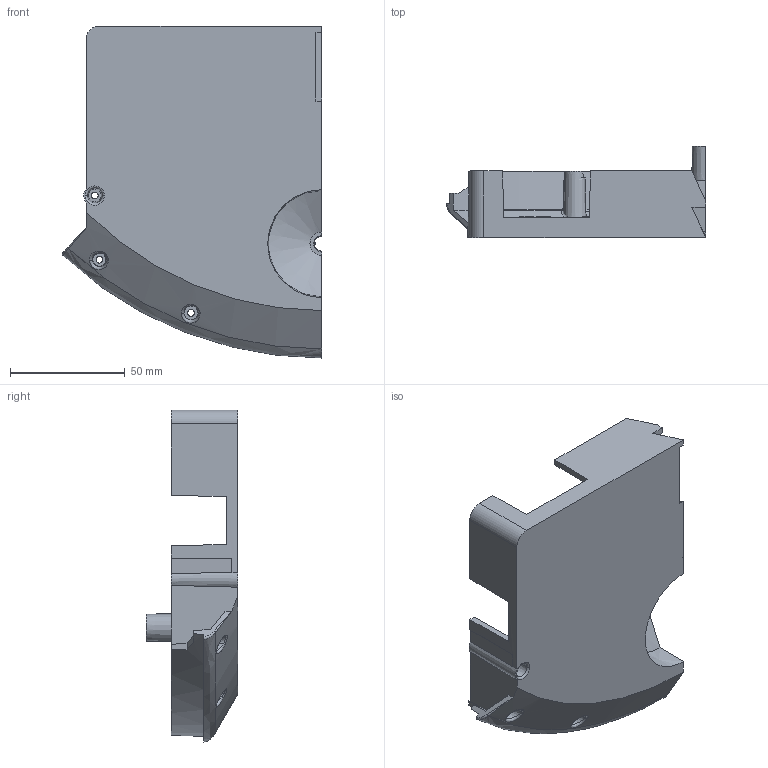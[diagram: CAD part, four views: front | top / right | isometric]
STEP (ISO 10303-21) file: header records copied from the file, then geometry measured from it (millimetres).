
FILE_DESCRIPTION((''),'2;1');
FILE_NAME('C600CASTERRIGHT','2014-09-17T',('areichel'),('iRobot'),'PRO/ENGINEER BY PARAMETRIC TECHNOLOGY CORPORATION, 2014090','PRO/ENGINEER BY PARAMETRIC TECHNOLOGY CORPORATION, 2014090','');
FILE_SCHEMA(('CONFIG_CONTROL_DESIGN'));
Length unit declared in the file: millimetre
Products named in the file (1): C600CASTERRIGHT
Bounding box: 113.16 x 39.9 x 144.91 mm (x, y, z)
Volume: 58381.1 mm3; surface area: 47802.5 mm2
Topology: 1 solids, 1 shells, 276 faces, 720 edges, 469 vertices
Faces by surface type: plane 191, cone 53, bspline 15, torus 13, cylinder 3, sphere 1
Entity records: 10283 total; most frequent: CARTESIAN_POINT 3543, ORIENTED_EDGE 1438, DIRECTION 1300, EDGE_CURVE 719, VECTOR 500, LINE 500, VERTEX_POINT 469, AXIS2_PLACEMENT_3D 400
